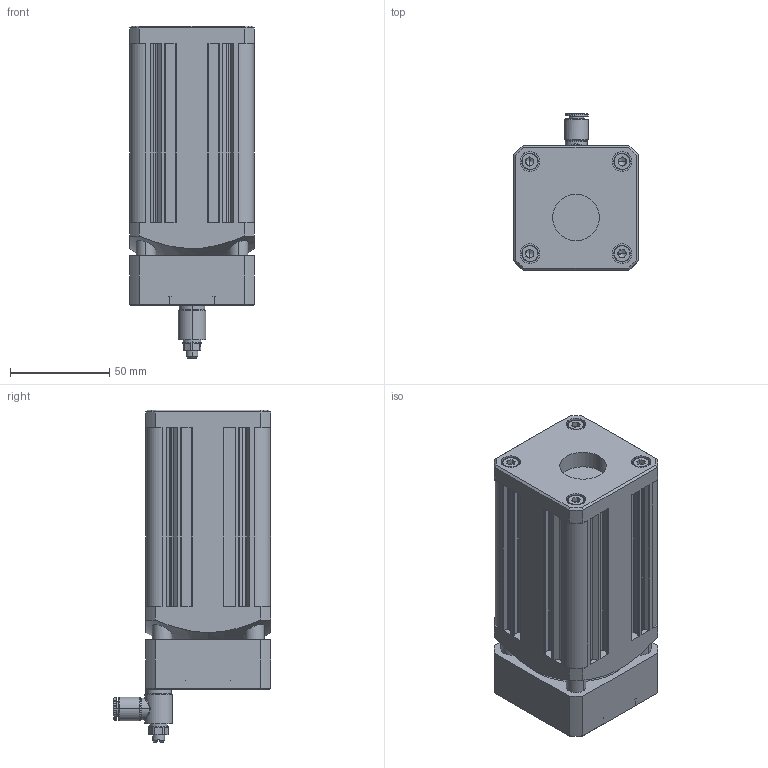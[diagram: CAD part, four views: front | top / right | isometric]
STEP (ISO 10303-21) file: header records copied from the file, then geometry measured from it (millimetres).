
FILE_DESCRIPTION (( 'STEP AP203' ), '1' );
FILE_NAME ('VNOK-C-AL-E-0050-0090.STEP', '2019-02-06T12:52:30', ( '' ), ( '' ), 'SwSTEP 2.0', 'SolidWorks 2018', '' );
FILE_SCHEMA (( 'CONFIG_CONTROL_DESIGN' ));
Length unit declared in the file: millimetre
Products named in the file (1): VNOK-C-AL-E-0050-0090
Bounding box: 63 x 79.28 x 167.6 mm (x, y, z)
Volume: 503625.5 mm3; surface area: 65563.5 mm2
Topology: 1 solids, 20 shells, 841 faces, 2114 edges, 1336 vertices
Faces by surface type: plane 422, cylinder 285, cone 70, bspline 64
Entity records: 28914 total; most frequent: CARTESIAN_POINT 8597, DIRECTION 4369, ORIENTED_EDGE 4164, EDGE_CURVE 2082, AXIS2_PLACEMENT_3D 1651, VERTEX_POINT 1336, VECTOR 1067, LINE 1067
